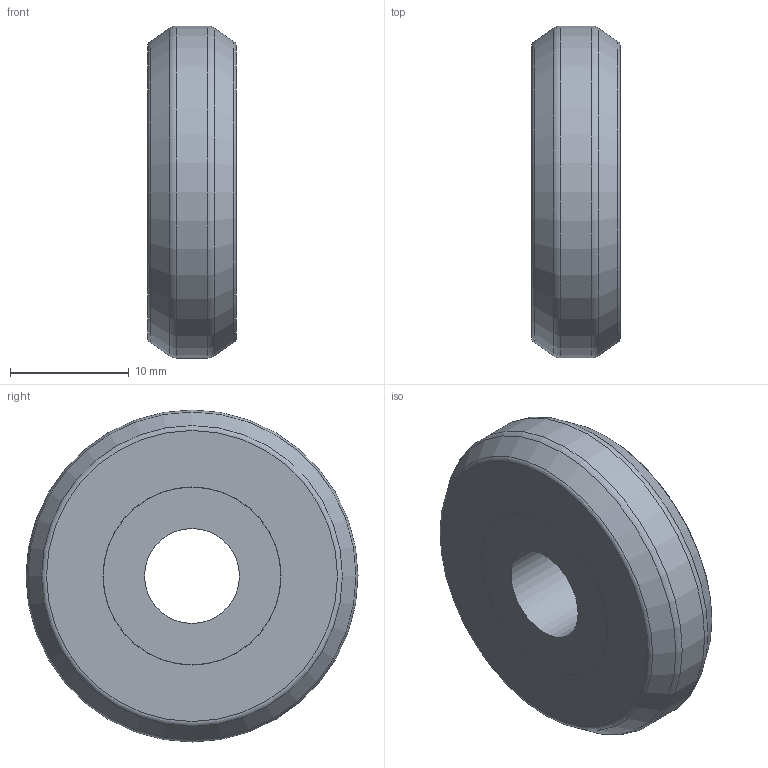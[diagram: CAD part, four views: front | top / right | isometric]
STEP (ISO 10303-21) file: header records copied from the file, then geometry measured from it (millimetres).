
FILE_DESCRIPTION( ( 'STEP AP203' ), '1' );
FILE_NAME( 'C:/Temp/Ganter_Step_05_03_2020/data/3_8/gn2426/Track GN 2426-35-B-2RS.stp', '2020-03-12T15:07:22', ( 'License CC BY-ND 4.0' ), ( 'CADENAS' ), ' ', 'PARTsolutions', ' ' );
FILE_SCHEMA( ( 'CONFIG_CONTROL_DESIGN' ) );
Length unit declared in the file: millimetre
Products named in the file (1): _Track GN 2426-35-B-2RS
Bounding box: 7.5 x 28 x 28 mm (x, y, z)
Volume: 3975.7 mm3; surface area: 1785.7 mm2
Topology: 1 solids, 1 shells, 18 faces, 30 edges, 18 vertices
Faces by surface type: plane 6, cylinder 6, torus 4, cone 2
Full cylindrical faces by diameter (mm): 8 x1, 14.98 x2, 15.02 x2, 28 x1
Entity records: 412 total; most frequent: DIRECTION 74, CARTESIAN_POINT 55, AXIS2_PLACEMENT_3D 37, EDGE_LOOP 36, ORIENTED_EDGE 36, FACE_OUTER_BOUND 28, ADVANCED_FACE 18, EDGE_CURVE 18
